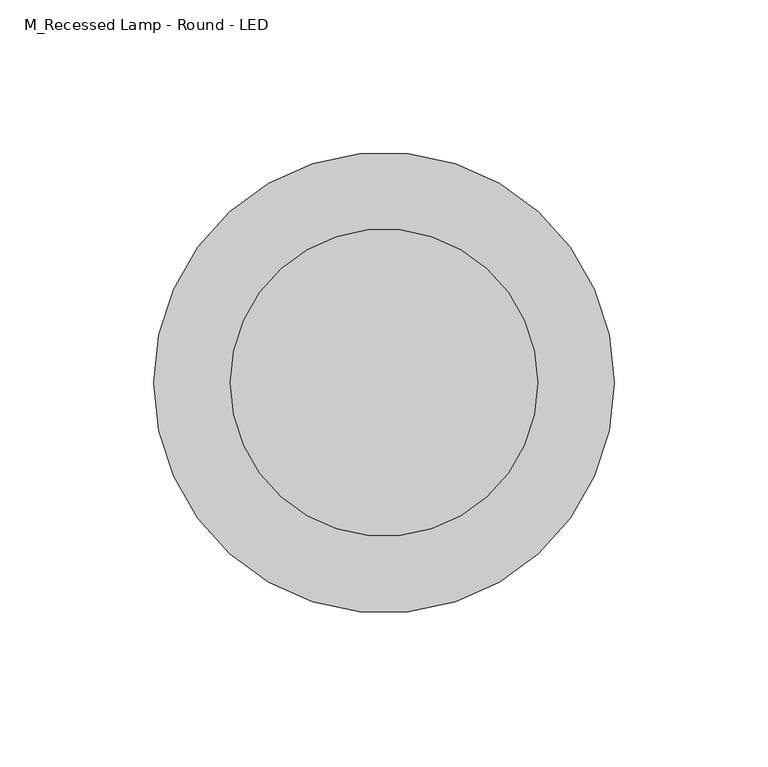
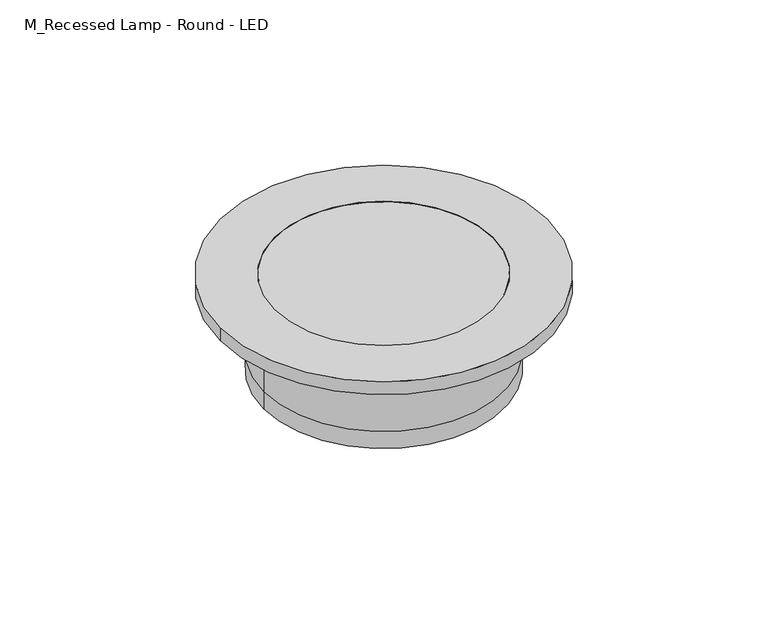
"""IFC4 building model written with IfcOpenShell, lengths in millimetres: light fixture geometry, M_Recessed Lamp - Round - LED : 100mm Trimless Downlight."""

from ifc_helpers import new_model, si_unit, point, frame, origin, origin_with_axes, origin_2d, place, context, project, spatial, polyline, circle_curve, trimmed, segment, composite_curve, outline, extrude, source, transform, mapped, element, save
from ifc_brep_helpers import plane_surface, cylinder_surface, revolved_surface, advanced_brep


def m_recessed_lamp_round_led_ae0475c0(model_context):
    return source(origin(), model_context, "Body", "SolidModel", [
        extrude(outline(composite_curve([segment(trimmed(circle_curve(origin_2d(), 75.0), [point((-75.0, 0.0))], [point((75.0, 0.0))], False, "CARTESIAN"), True, "CONTINUOUS"), segment(trimmed(circle_curve(origin_2d(), 75.0), [point((75.0, 0.0))], [point((-75.0, 0.0))], False, "CARTESIAN"), True, "CONTINUOUS")], self_intersect=False), holes=[composite_curve([segment(trimmed(circle_curve(origin_2d(), 50.0), [point((-50.0, 0.0))], [point((50.0, 0.0))], True, "CARTESIAN"), True, "CONTINUOUS"), segment(trimmed(circle_curve(origin_2d(), 50.0), [point((50.0, 0.0))], [point((-50.0, 0.0))], True, "CARTESIAN"), True, "CONTINUOUS")], self_intersect=False)]), origin_with_axes(), (0.0, 0.0, 1.0), 6.35),
        extrude(outline(composite_curve([segment(trimmed(circle_curve(origin_2d(), 50.0), [point((-50.0, 0.0))], [point((50.0, 0.0))], False, "CARTESIAN"), True, "CONTINUOUS"), segment(trimmed(circle_curve(origin_2d(), 50.0), [point((50.0, 0.0))], [point((-50.0, 0.0))], False, "CARTESIAN"), True, "CONTINUOUS")], self_intersect=False)), origin_with_axes(), (0.0, 0.0, 1.0), 6.35),
        advanced_brep(
        [(-50.0, 0.0, -31.75), (50.0, 0.0, -31.75), (-55.0, 0.0, -40.0), (55.0, 0.0, -40.0), (-55.0, 0.0, -31.75), (55.0, 0.0, -31.75), (-55.0, 0.0, 0.0), (55.0, 0.0, 0.0), (-50.0, 0.0, 0.0), (50.0, 0.0, 0.0)],
        [
            (0, 1, circle_curve(frame((0.0, 0.0, -31.75), z_axis=(0.0, 0.0, 1.0), x_axis=(1.0, 0.0, 0.0)), 50.0)),
            (1, 0, circle_curve(frame((0.0, 0.0, -31.75), z_axis=(0.0, 0.0, 1.0), x_axis=(1.0, 0.0, 0.0)), 50.0)),
            (2, 3, circle_curve(frame((0.0, 0.0, -40.0), z_axis=(0.0, 0.0, -1.0), x_axis=(1.0, 0.0, 0.0)), 55.0)),
            (3, 2, circle_curve(frame((0.0, 0.0, -40.0), z_axis=(0.0, 0.0, -1.0), x_axis=(1.0, 0.0, 0.0)), 55.0)),
            (2, 4),
            (4, 5, circle_curve(frame((0.0, 0.0, -31.75), z_axis=(0.0, 0.0, -1.0), x_axis=(1.0, 0.0, 0.0)), 55.0)),
            (5, 3),
            (5, 4, circle_curve(frame((0.0, 0.0, -31.75), z_axis=(0.0, 0.0, -1.0), x_axis=(1.0, 0.0, 0.0)), 55.0)),
            (6, 7, circle_curve(origin_with_axes(), 55.0)),
            (7, 6, circle_curve(origin_with_axes(), 55.0)),
            (8, 9, circle_curve(frame((0.0, 0.0, 0.0), z_axis=(0.0, 0.0, -1.0), x_axis=(1.0, 0.0, 0.0)), 50.0)),
            (9, 8, circle_curve(frame((0.0, 0.0, 0.0), z_axis=(0.0, 0.0, -1.0), x_axis=(1.0, 0.0, 0.0)), 50.0)),
            (8, 0),
            (1, 9),
            (7, 5),
            (4, 6),
        ],
        [
            plane_surface(frame((55.0, 0.0, -31.75), z_axis=(0.0, 0.0, 1.0), x_axis=(0.0, -1.0, 0.0))),
            plane_surface(frame((55.0, 0.0, -40.0), z_axis=(0.0, 0.0, -1.0), x_axis=(0.0, 1.0, 0.0))),
            cylinder_surface(frame((0.0, 0.0, -40.0), z_axis=(0.0, 0.0, 1.0), x_axis=(1.0, 0.0, 0.0)), 55.0),
            plane_surface(frame((50.0, 0.0, 0.0), z_axis=(0.0, 0.0, 1.0), x_axis=(0.0, 1.0, 0.0))),
            revolved_surface(polyline([(50.0, 0.0, -31.75), (50.0, 0.0, 0.0)]), (0.0, 0.0, -31.75), (0.0, 0.0, -1.0)),
            cylinder_surface(origin_with_axes(), 55.0),
        ],
        [
            (0, [[1, 2]]),
            (1, [[3, 4]]),
            (2, [[5, 6, 7, -3]]),
            (2, [[-7, 8, -5, -4]]),
            (3, [[9, 10], [11, 12]]),
            (4, [[13, -2, 14, -11]]),
            (4, [[-14, -1, -13, -12]]),
            (5, [[15, -6, 16, -10]]),
            (5, [[-16, -8, -15, -9]]),
        ],
    ),
    ])


if __name__ == "__main__":
    model = new_model("IFC4")
    model_context = context("Model", 3, world=origin())
    ifc_project = project(units=[si_unit("LENGTHUNIT", "METRE", prefix="MILLI")], contexts=[model_context])
    site = spatial("IfcSite", under=ifc_project)
    building = spatial("IfcBuilding", under=site)
    placement = place(None, origin())
    m_recessed_lamp_round_led_shape = m_recessed_lamp_round_led_ae0475c0(model_context)
    element("IfcLightFixture", 1, ObjectType="M_Recessed Lamp - Round - LED : 100mm Trimless Downlight", at=placement, inside=building, context=model_context, shape_type="MappedRepresentation", body=[
        mapped(m_recessed_lamp_round_led_shape, transform((0.0, 0.0, 0.0), x_axis=(1.0, 0.0, 0.0), y_axis=(0.0, 1.0, 0.0), z_axis=(0.0, 0.0, 1.0))),
    ])
    save(model, "model.ifc")
